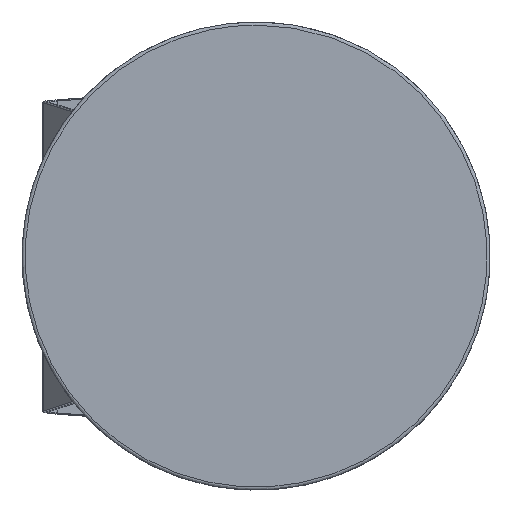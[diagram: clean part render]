
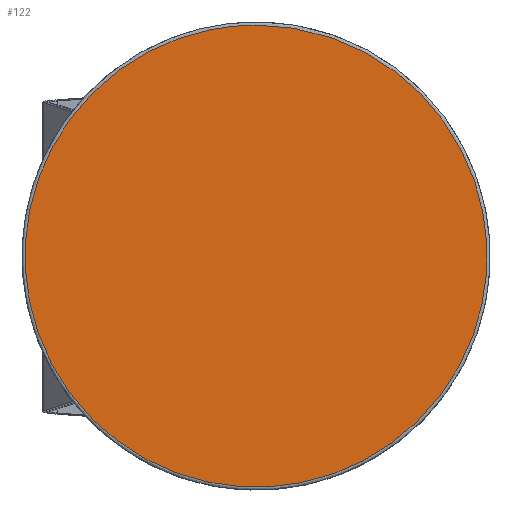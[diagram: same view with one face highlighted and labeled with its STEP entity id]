
A CAD part, top view. The second image highlights one B-rep face of the part: STEP entity #122.
In plain terms, the highlighted planar face has unit normal (0, 0, 1).
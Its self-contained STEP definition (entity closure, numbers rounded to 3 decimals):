
#122=ADVANCED_FACE('',(#248),#1644,.T.);
#248=FACE_OUTER_BOUND('',#388,.T.);
#388=EDGE_LOOP('',(#766));
#766=ORIENTED_EDGE('',*,*,#1128,.F.);
#1128=EDGE_CURVE('',#1584,#1584,#1424,.T.);
#1424=(
BOUNDED_CURVE()
B_SPLINE_CURVE(2,(#7877,#7878,#7879,#7880,#7881,#7882,#7883,#7884,#7885),
 .UNSPECIFIED.,.T.,.F.)
B_SPLINE_CURVE_WITH_KNOTS((3,2,2,2,3),(0.,348.717,697.434,
1046.15,1394.867),.UNSPECIFIED.)
CURVE()
GEOMETRIC_REPRESENTATION_ITEM()
RATIONAL_B_SPLINE_CURVE((1.,0.707,1.,0.707,1.,0.707,
1.,0.707,1.))
REPRESENTATION_ITEM('')
);
#1584=VERTEX_POINT('',#7861);
#1644=PLANE('',#1787);
#1787=AXIS2_PLACEMENT_3D('',#7803,#1802,$);
#1802=DIRECTION('',(0.,0.,1.));
#7803=CARTESIAN_POINT('',(-281.25,-281.25,500.));
#7861=CARTESIAN_POINT('',(0.,222.,500.));
#7877=CARTESIAN_POINT('',(0.,222.,500.));
#7878=CARTESIAN_POINT('',(222.,222.,500.));
#7879=CARTESIAN_POINT('',(222.,0.,500.));
#7880=CARTESIAN_POINT('',(222.,-222.,500.));
#7881=CARTESIAN_POINT('',(0.,-222.,500.));
#7882=CARTESIAN_POINT('',(-222.,-222.,500.));
#7883=CARTESIAN_POINT('',(-222.,0.,500.));
#7884=CARTESIAN_POINT('',(-222.,222.,500.));
#7885=CARTESIAN_POINT('',(0.,222.,500.));
